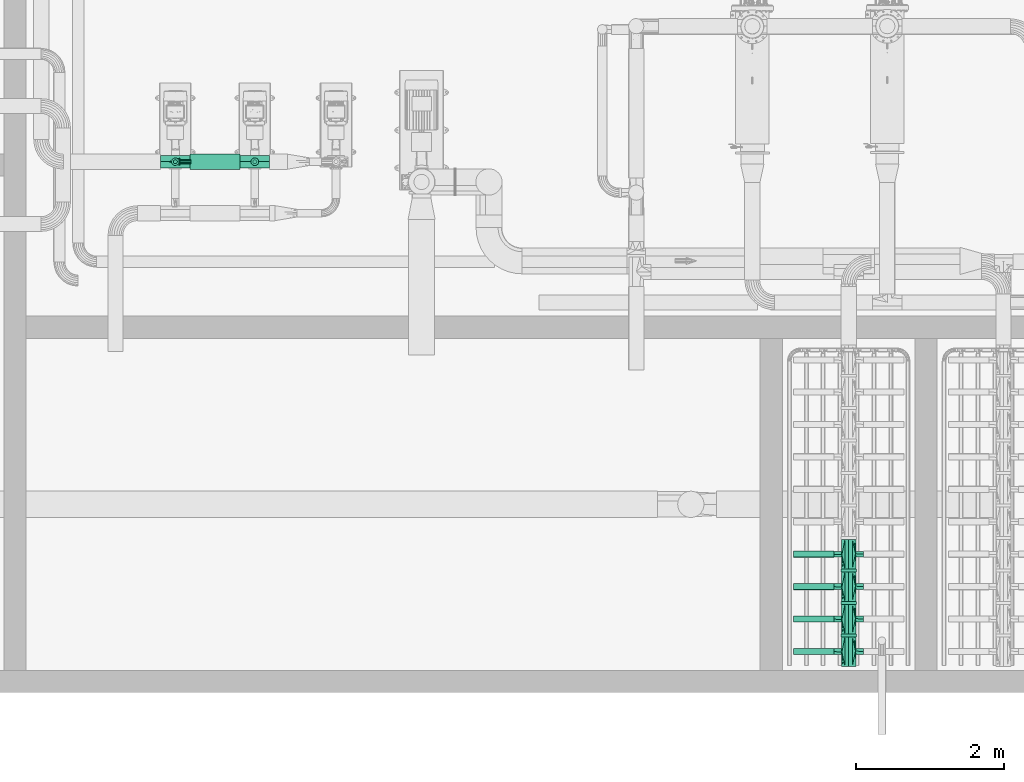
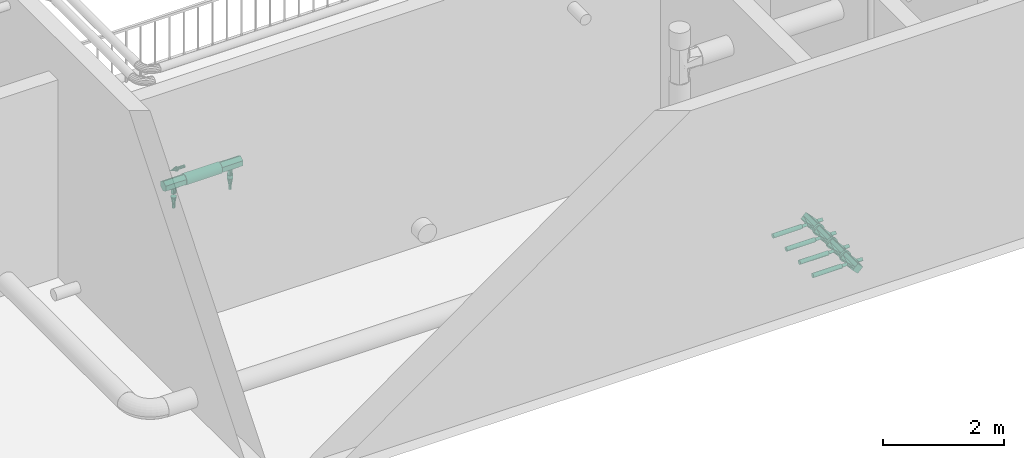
# One storey, part 10 of 28: 11 flow segments, 8 flow fittings, 1 flow controller.
"""IFC2X3 building model written with IfcOpenShell, lengths in millimetres."""

from ifc_helpers import new_model, entity, si_unit, converted_unit, direction, frame, frame_2d, origin, origin_2d_with_axis, place, context, subcontext, project, spatial, circle, extrude, faceted_brep, source, transform, mapped, material, type_object, type_shapes, element, save


model = new_model("IFC2X3")

# Units and contexts
model_context = context("Model", 3, precision=0.01, world=origin(), true_north=direction((6.123031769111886e-17, 1.0)))
body_context = subcontext(model_context, "Body", "Model", "MODEL_VIEW")
ifc_project = project(units=[si_unit("LENGTHUNIT", "METRE", prefix="MILLI"), converted_unit("PLANEANGLEUNIT", "DEGREE", entity("IfcPlaneAngleMeasure", 0.017453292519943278), si_unit("PLANEANGLEUNIT", "RADIAN"), dimensions=[0, 0, 0, 0, 0, 0, 0]), si_unit("AREAUNIT", "SQUARE_METRE")], contexts=[model_context])

# Site, building, storey
site_placement = place(None, frame((7776.576483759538, 118.3519876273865, 0.0)))
site = spatial("IfcSite", under=ifc_project, at=site_placement, Name="Default", CompositionType="ELEMENT")
building_placement = place(site_placement, origin())
building = spatial("IfcBuilding", under=site, at=building_placement, Name="Bygning (endres i Project Information)", CompositionType="ELEMENT")
storey_placement = place(building_placement, frame((0.0, 0.0, 14000.0)))
storey = spatial("IfcBuildingStorey", under=building, at=storey_placement, Name="Plan U1 - Arbeid", CompositionType="ELEMENT", Elevation=14000.000000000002)

# Flow segments
ifc_material_1 = material(Name="SS 2343 Rustfritt stål, prosessrør, generisk")
pipe_segment_type = type_object("IfcPipeSegmentType", Name="Pipe Types:AISI 304L Rustfritt", PredefinedType="NOTDEFINED", material=ifc_material_1)
flow_segment_1_placement = place(storey_placement, origin())
element("IfcFlowSegment", 1, at=flow_segment_1_placement, inside=storey, type_object=pipe_segment_type, Name="Pipe Types:AISI 304L Rustfritt", ObjectType="Pipe Types:AISI 304L Rustfritt", context=body_context, shape_type="SweptSolid", body=[
    extrude(circle(Radius=42.0, at=origin_2d_with_axis()), frame((28224.00137486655, 21271.75730578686, 203.0), z_axis=(1.0, 0.0, 0.0), x_axis=(0.0, -1.0, 0.0)), (0.0, 0.0, 1.0), 550.0000000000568),
])
flow_segment_2_placement = place(storey_placement, origin())
element("IfcFlowSegment", 2, at=flow_segment_2_placement, inside=storey, type_object=pipe_segment_type, Name="Pipe Types:AISI 304L Rustfritt", ObjectType="Pipe Types:AISI 304L Rustfritt", context=body_context, shape_type="SweptSolid", body=[
    extrude(circle(Radius=42.0, at=origin_2d_with_axis()), frame((28224.00137486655, 20831.75730578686, 203.0), z_axis=(1.0, 0.0, 0.0), x_axis=(0.0, -1.0, 0.0)), (0.0, 0.0, 1.0), 550.0000000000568),
])
flow_segment_3_placement = place(storey_placement, origin())
element("IfcFlowSegment", 3, at=flow_segment_3_placement, inside=storey, type_object=pipe_segment_type, Name="Pipe Types:AISI 304L Rustfritt", ObjectType="Pipe Types:AISI 304L Rustfritt", context=body_context, shape_type="SweptSolid", body=[
    extrude(circle(Radius=103.0, at=origin_2d_with_axis()), frame((28974.00137486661, 21031.757305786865, 203.0), z_axis=(0.0, 1.0, 0.0), x_axis=(1.0, 0.0, 0.0)), (0.0, 0.0, 1.0), 39.99999999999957),
])
flow_segment_4_placement = place(storey_placement, origin())
element("IfcFlowSegment", 4, at=flow_segment_4_placement, inside=storey, type_object=pipe_segment_type, Name="Pipe Types:AISI 304L Rustfritt", ObjectType="Pipe Types:AISI 304L Rustfritt", context=body_context, shape_type="SweptSolid", body=[
    extrude(circle(Radius=42.0, at=origin_2d_with_axis()), frame((28224.00137486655, 20391.757305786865, 203.0), z_axis=(1.0, 0.0, 0.0), x_axis=(0.0, -1.0, 0.0)), (0.0, 0.0, 1.0), 550.0000000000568),
])
flow_segment_5_placement = place(storey_placement, origin())
element("IfcFlowSegment", 5, at=flow_segment_5_placement, inside=storey, type_object=pipe_segment_type, Name="Pipe Types:AISI 304L Rustfritt", ObjectType="Pipe Types:AISI 304L Rustfritt", context=body_context, shape_type="SweptSolid", body=[
    extrude(circle(Radius=103.0, at=origin_2d_with_axis()), frame((28974.00137486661, 20591.757305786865, 203.0), z_axis=(0.0, 1.0, 0.0), x_axis=(1.0, 0.0, 0.0)), (0.0, 0.0, 1.0), 39.99999999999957),
])
flow_segment_6_placement = place(storey_placement, origin())
element("IfcFlowSegment", 6, at=flow_segment_6_placement, inside=storey, type_object=pipe_segment_type, Name="Pipe Types:AISI 304L Rustfritt", ObjectType="Pipe Types:AISI 304L Rustfritt", context=body_context, shape_type="SweptSolid", body=[
    extrude(circle(Radius=42.0, at=origin_2d_with_axis()), frame((28224.00137486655, 19951.757305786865, 203.0), z_axis=(1.0, 0.0, 0.0), x_axis=(0.0, -1.0, 0.0)), (0.0, 0.0, 1.0), 550.0000000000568),
])
flow_segment_7_placement = place(storey_placement, origin())
element("IfcFlowSegment", 7, at=flow_segment_7_placement, inside=storey, type_object=pipe_segment_type, Name="Pipe Types:AISI 304L Rustfritt", ObjectType="Pipe Types:AISI 304L Rustfritt", context=body_context, shape_type="SweptSolid", body=[
    extrude(circle(Radius=103.0, at=origin_2d_with_axis()), frame((28974.00137486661, 20151.757305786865, 203.0), z_axis=(0.0, 1.0, 0.0), x_axis=(1.0, 0.0, 0.0)), (0.0, 0.0, 1.0), 39.99999999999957),
])
flow_segment_8_placement = place(storey_placement, origin())
element("IfcFlowSegment", 8, at=flow_segment_8_placement, inside=storey, type_object=pipe_segment_type, Name="Pipe Types:AISI 304L Rustfritt", ObjectType="Pipe Types:AISI 304L Rustfritt", context=body_context, shape_type="SweptSolid", body=[
    extrude(circle(Radius=53.0, at=origin_2d_with_axis()), frame((20922.997814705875, 26593.04154167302, 715.0123753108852), z_axis=(0.0, 0.0011262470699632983, 0.9999993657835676), x_axis=(1.0, 0.0, 0.0)), (0.0, 0.0, 1.0), 70.00004906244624),
])
flow_segment_9_placement = place(storey_placement, origin())
element("IfcFlowSegment", 9, at=flow_segment_9_placement, inside=storey, type_object=pipe_segment_type, Name="Pipe Types:AISI 304L Rustfritt", ObjectType="Pipe Types:AISI 304L Rustfritt", context=body_context, shape_type="SweptSolid", body=[
    extrude(circle(Radius=103.0, at=frame_2d((0.0, -2.1657342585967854e-12), x_axis=(1.0, 0.0))), frame((20045.480355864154, 26593.120379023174, 985.0123799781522), z_axis=(1.0, 0.0, 0.0), x_axis=(0.0, 1.0, 0.0)), (0.0, 0.0, 1.0), 677.5174588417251),
])
flow_segment_10_placement = place(storey_placement, origin())
element("IfcFlowSegment", 10, at=flow_segment_10_placement, inside=storey, type_object=pipe_segment_type, Name="Pipe Types:AISI 304L Rustfritt", ObjectType="Pipe Types:AISI 304L Rustfritt", context=body_context, shape_type="SweptSolid", body=[
    extrude(circle(Radius=27.0, at=frame_2d((0.0, -4.331468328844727e-12), x_axis=(1.0, 0.0))), frame((20922.997814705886, 26593.109369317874, 485.01237997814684), z_axis=(0.0, -0.00029490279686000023, 0.9999999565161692), x_axis=(-1.0, 0.0, 0.0)), (0.0, 0.0, 1.0), 80.00000533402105),
])
flow_segment_11_placement = place(storey_placement, origin())
element("IfcFlowSegment", 11, at=flow_segment_11_placement, inside=storey, type_object=pipe_segment_type, Name="Pipe Types:AISI 304L Rustfritt", ObjectType="Pipe Types:AISI 304L Rustfritt", context=body_context, shape_type="SweptSolid", body=[
    extrude(circle(Radius=27.0, at=frame_2d((0.0, -4.330204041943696e-12), x_axis=(1.0, 0.0))), frame((19845.48035586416, 26593.098594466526, 485.0123799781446), z_axis=(0.0, -0.0005835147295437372, 0.9999998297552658), x_axis=(-1.0, 0.0, 0.0)), (0.0, 0.0, 1.0), 80.00002088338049),
])

# Flow fittings
pipe_fitting_type_1 = type_object("IfcPipeFittingType", Name="VA_prosess_rustfritt_kryss:VA_prosess_rustfritt_kryss", PredefinedType="NOTDEFINED", material=ifc_material_1)
shared_shape_1 = source(origin(), body_context, "Body", "Brep", [
    faceted_brep([(-200.0, -100.0, 0.0), (-200.0, -50.0, 50.0), (-200.0, 0.0, 100.0), (-200.0, 50.0, 50.0), (-200.0, 75.0, 25.0), (-200.0, 100.0, 0.0), (-200.0, 50.0, -50.0), (-200.0, 0.0, -100.0), (-200.0, -50.0, -50.0), (-200.0, -75.0, -25.0), (200.0, 50.0, -50.0), (200.0, 75.0, -25.0), (200.0, 100.0, 0.0), (200.0, 50.0, 50.0), (200.0, 0.0, 100.0), (200.0, -50.0, 50.0), (200.0, -75.0, 25.0), (200.0, -100.0, 0.0), (200.0, -50.0, -50.0), (200.0, 0.0, -100.0), (40.0, -100.0, 0.0), (-7.006670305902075, 91.91895032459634, 39.381551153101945), (-40.0, -100.0, 0.0), (-28.24833242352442, -97.97973758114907, 9.845387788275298), (-16.496664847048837, -95.9594751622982, 19.690775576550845), (-4.744997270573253, -93.93921274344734, 29.53616336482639), (7.00667030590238, -91.91895032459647, 39.38155115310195), (23.50333515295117, -95.95947516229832, 19.690775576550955), (-23.503335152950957, 95.95947516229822, 19.69077557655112), (-40.0, 100.0, 0.0), (40.0, 100.0, 0.0), (28.248332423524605, 97.97973758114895, 9.845387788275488), (16.496664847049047, 95.95947516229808, 19.690775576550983), (4.744997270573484, 93.93921274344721, 29.536163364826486), (-7.017574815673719, -91.91978218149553, -39.37960949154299), (-23.508787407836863, -95.95989109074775, -19.68980474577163), (-28.245606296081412, 97.97994554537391, -9.844902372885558), (-16.491212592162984, 95.95989109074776, -19.689804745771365), (-4.736818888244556, 93.93983663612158, -29.534707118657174), (7.017574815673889, 91.91978218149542, -39.37960949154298), (23.508787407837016, 95.95989109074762, -19.689804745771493), (28.24560629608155, -97.97994554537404, -9.844902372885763), (16.49121259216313, -95.95989109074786, -19.689804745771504), (4.736818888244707, -93.9398366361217, -29.53470711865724), (19.233483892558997, -200.0, -20.76651610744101), (29.616741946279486, -200.0, -10.383258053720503), (40.0, -200.0, 0.0), (20.0, -200.0, 20.0), (0.0, -200.0, 40.0), (-19.2334837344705, -200.0, 20.76651626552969), (-29.616741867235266, -200.0, 10.383258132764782), (-40.0, -200.0, 0.0), (-20.0, -200.0, -20.0), (0.0, -200.0, -40.0), (-19.23348389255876, 200.0, -20.766516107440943), (-29.616741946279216, 200.0, -10.38325805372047), (-40.0, 200.0, 0.0), (-20.0, 200.0, 20.0), (0.0, 200.0, 40.0), (19.233483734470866, 200.0, 20.76651626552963), (29.616741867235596, 200.0, 10.383258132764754), (40.0, 200.0, 0.0), (20.0, 200.0, -20.0), (0.0, 200.0, -40.0)], [[[0, 1, 2, 3, 4, 5, 6, 7, 8, 9]], [[10, 11, 12, 13, 14, 15, 16, 17, 18, 19]], [[17, 16, 20]], [[15, 14, 2, 1]], [[3, 13, 21]], [[0, 22, 23, 24, 25, 26]], [[0, 26, 1]], [[16, 26, 27, 20]], [[4, 21, 28, 29]], [[21, 13, 12]], [[26, 16, 15]], [[12, 30, 31, 32, 33, 21]], [[29, 5, 4]], [[2, 14, 13, 3]], [[21, 4, 3]], [[1, 26, 15]], [[11, 30, 12]], [[10, 19, 7, 6]], [[34, 9, 8]], [[9, 34, 35, 22]], [[5, 29, 36, 37, 38, 39]], [[39, 11, 10]], [[5, 39, 6]], [[34, 18, 17]], [[11, 39, 40, 30]], [[17, 20, 41, 42, 43, 34]], [[22, 0, 9]], [[7, 19, 18, 8]], [[6, 39, 10]], [[8, 18, 34]], [[44, 45, 46, 47, 48, 49, 50, 51, 52, 53]], [[25, 24, 23, 49]], [[49, 23, 50]], [[50, 22, 51]], [[49, 48, 25]], [[26, 48, 47]], [[47, 27, 26]], [[20, 27, 46]], [[46, 27, 47]], [[48, 26, 25]], [[22, 50, 23]], [[43, 42, 41, 44]], [[44, 41, 45]], [[45, 20, 46]], [[44, 53, 43]], [[34, 53, 52]], [[52, 35, 34]], [[22, 35, 51]], [[51, 35, 52]], [[53, 34, 43]], [[20, 45, 41]], [[54, 55, 56, 57, 58, 59, 60, 61, 62, 63]], [[33, 32, 31, 59]], [[59, 31, 60]], [[60, 30, 61]], [[59, 58, 33]], [[21, 58, 57]], [[57, 28, 21]], [[29, 28, 56]], [[56, 28, 57]], [[58, 21, 33]], [[30, 60, 31]], [[38, 37, 36, 54]], [[54, 36, 55]], [[55, 29, 56]], [[54, 63, 38]], [[39, 63, 62]], [[62, 40, 39]], [[30, 40, 61]], [[61, 40, 62]], [[63, 39, 38]], [[29, 55, 36]]]),
])
type_shapes(pipe_fitting_type_1, [shared_shape_1])
for number, where, z_axis, x_axis in (
    (12, (28974.00137486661, 21271.75730578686, 203.0), (0.0, 0.0, 1.0), (0.0, 1.0, 0.0)),
    (13, (28974.00137486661, 20831.75730578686, 203.0), (0.0, 0.0, 1.0), (0.0, 1.0, 0.0)),
    (14, (28974.00137486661, 20391.757305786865, 203.0), (0.0, 0.0, 1.0), (0.0, 1.0, 0.0)),
    (15, (28974.00137486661, 19951.757305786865, 203.0), (0.0, 0.0, 1.0), (0.0, 1.0, 0.0)),
):
    element("IfcFlowFitting", number, at=place(storey_placement, frame(where, z_axis=z_axis, x_axis=x_axis)), inside=storey, type_object=pipe_fitting_type_1, material=ifc_material_1, Name="VA_prosess_rustfritt_kryss:VA_prosess_rustfritt_kryss", ObjectType="VA_prosess_rustfritt_kryss:VA_prosess_rustfritt_kryss", context=body_context, shape_type="MappedRepresentation", body=[
        mapped(shared_shape_1, transform((0.0, 0.0, 0.0), scale=1.0)),
    ])
pipe_fitting_type_2 = type_object("IfcPipeFittingType", Name="VA_prosess_rustfritt_T_D=L:T-rør_prosess_D=L", PredefinedType="NOTDEFINED", material=ifc_material_1)
shared_shape_2 = source(origin(), body_context, "Body", "Brep", [
    faceted_brep([(-200.0, -100.0, 0.0), (-200.0, -75.0, 43.30127018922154), (-200.0, -50.0, 86.60254037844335), (-200.0, 0.0, 86.60254037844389), (-200.0, 50.0, 86.60254037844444), (-200.0, 75.0, 43.30127018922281), (-200.0, 100.0, 0.0), (-200.0, 75.0, -43.30127018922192), (-200.0, 50.0, -86.60254037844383), (-200.0, 0.0, -86.60254037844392), (-200.0, -50.0, -86.60254037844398), (-200.0, -75.0, -43.301270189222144), (200.0, 50.0, -86.60254037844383), (200.0, 75.0, -43.30127018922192), (200.0, 100.0, 0.0), (200.0, 79.16042409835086, 36.095204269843), (200.0, 50.0, 86.60254037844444), (200.0, 0.0, 86.60254037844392), (200.0, -50.0, 86.60254037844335), (200.0, -75.0, 43.3012701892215), (200.0, -100.0, 0.0), (200.0, -75.0, -43.30127018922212), (200.0, -50.0, -86.60254037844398), (200.0, 0.0, -86.60254037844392), (50.0, -100.0, 0.0), (-50.0, -100.0, 0.0), (-20.591033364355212, -93.52515349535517, 24.60814932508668), (8.817933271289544, -87.05030699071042, 49.216298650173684), (29.408966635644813, -93.52515349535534, 24.60814932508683), (20.594032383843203, -93.52484980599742, -24.60868646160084), (-8.811935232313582, -87.04969961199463, -49.21737292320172), (-29.4059676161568, -93.52484980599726, -24.608686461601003), (-36.99869875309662, -200.0, -22.518914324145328), (-25.0, -200.0, -43.30127018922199), (0.0, -200.0, -43.30127018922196), (25.0, -200.0, -43.30127018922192), (36.998698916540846, -200.0, -22.51891404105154), (50.0, -200.0, 0.0), (36.99869857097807, -200.0, 22.518914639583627), (25.0, -200.0, 43.30127018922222), (0.0, -200.0, 43.301270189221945), (-25.0, -200.0, 43.301270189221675), (-36.99869904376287, -200.0, 22.518913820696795), (-50.0, -200.0, 0.0)], [[[0, 1, 2, 3, 4, 5, 6, 7, 8, 9, 10, 11]], [[12, 13, 14, 15, 16, 17, 18, 19, 20, 21, 22, 23]], [[20, 19, 24]], [[25, 1, 0]], [[1, 25, 26, 27]], [[27, 2, 1]], [[19, 27, 28, 24]], [[19, 18, 27]], [[18, 17, 16, 4, 3, 2]], [[16, 15, 14, 6, 5, 4]], [[18, 2, 27]], [[6, 14, 13, 12, 8, 7]], [[12, 23, 22, 10, 9, 8]], [[21, 20, 24]], [[25, 0, 11]], [[21, 24, 29, 30]], [[11, 30, 31, 25]], [[30, 22, 21]], [[30, 11, 10]], [[22, 30, 10]], [[32, 33, 34, 35, 36, 37, 38, 39, 40, 41, 42, 43]], [[26, 42, 41]], [[26, 41, 40]], [[26, 25, 42]], [[28, 39, 38]], [[26, 40, 27]], [[25, 43, 42]], [[27, 39, 28]], [[38, 24, 28]], [[27, 40, 39]], [[38, 37, 24]], [[29, 36, 35]], [[29, 35, 34]], [[29, 24, 36]], [[31, 33, 32]], [[29, 34, 30]], [[24, 37, 36]], [[30, 33, 31]], [[32, 25, 31]], [[30, 34, 33]], [[32, 43, 25]]]),
])
type_shapes(pipe_fitting_type_2, [shared_shape_2])
for number, where, z_axis, x_axis in (
    (16, (20922.997814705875, 26593.120379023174, 985.0123799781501), (0.0, -1.0, 0.0), (1.0, 0.0, 0.0)),
    (17, (19845.48035586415, 26593.120379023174, 985.0123799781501), (0.0, -1.0, 0.0), (1.0, 0.0, 0.0)),
):
    element("IfcFlowFitting", number, at=place(storey_placement, frame(where, z_axis=z_axis, x_axis=x_axis)), inside=storey, type_object=pipe_fitting_type_2, material=ifc_material_1, Name="VA_prosess_rustfritt_T_D=L:T-rør_prosess_D=L", ObjectType="VA_prosess_rustfritt_T_D=L:T-rør_prosess_D=L", context=body_context, shape_type="MappedRepresentation", body=[
        mapped(shared_shape_2, transform((0.0, 0.0, 0.0), scale=1.0)),
    ])
pipe_fitting_type_3 = type_object("IfcPipeFittingType", Name="Overganger, konsentriske, rustfritt EN 1,4307304L:Standard", PredefinedType="NOTDEFINED", material=ifc_material_1)
shared_shape_3 = source(origin(), body_context, "Body", "Brep", [
    faceted_brep([(150.0, -52.0, 0.0), (150.0, -49.425190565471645, -11.280977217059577), (150.0, -46.8503811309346, -22.561954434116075), (150.0, -39.63592541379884, -31.608595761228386), (150.0, -32.421469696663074, -40.6552370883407), (150.0, -21.99627913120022, -45.67574426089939), (150.0, -11.571088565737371, -50.696251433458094), (150.0, 0.0, -50.69625143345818), (150.0, 11.57108856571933, -50.69625143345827), (150.0, 21.99627913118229, -45.675744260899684), (150.0, 32.421469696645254, -40.6552370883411), (150.0, 39.635925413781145, -31.60859576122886), (150.0, 46.85038113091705, -22.5619544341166), (150.0, 49.42519056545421, -11.28097721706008), (150.0, 52.0, 0.0), (150.0, 49.425190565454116, 11.280977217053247), (150.0, 46.85038113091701, 22.561954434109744), (150.0, 39.635925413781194, 31.60859576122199), (150.0, 32.42146969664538, 40.65523708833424), (150.0, 21.99627913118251, 45.675744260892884), (150.0, 11.571088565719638, 50.69625143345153), (150.0, 0.0, 50.69625143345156), (150.0, -11.571088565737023, 50.69625143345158), (150.0, -21.996279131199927, 45.67574426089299), (150.0, -32.421469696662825, 40.65523708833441), (150.0, -39.63592541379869, 31.60859576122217), (150.0, -46.85038113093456, 22.561954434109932), (150.0, -49.42519056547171, 11.280977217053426), (0.0, -21.843458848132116, -15.870201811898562), (0.0, -24.421729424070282, -7.935100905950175), (0.0, -27.0, 0.0), (0.0, -24.42172942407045, 7.935100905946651), (0.0, -21.843458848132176, 15.870201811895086), (0.0, -15.09345884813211, 20.774363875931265), (0.0, -8.34345884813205, 25.67852593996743), (0.0, 0.0, 25.678525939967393), (0.0, 8.343458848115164, 25.67852593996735), (0.0, 15.093458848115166, 20.77436387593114), (0.0, 21.843458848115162, 15.870201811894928), (0.0, 24.421729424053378, 7.93510090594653), (0.0, 27.0, 0.0), (0.0, 24.421729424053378, -7.935100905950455), (0.0, 21.843458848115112, -15.870201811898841), (0.0, 15.093458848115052, -20.774363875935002), (0.0, 8.343458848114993, -25.67852593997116), (0.0, 0.0, -25.67852593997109), (0.0, -8.343458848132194, -25.678525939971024), (0.0, -15.093458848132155, -20.774363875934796)], [[[0, 1, 2, 3, 4, 5, 6, 7, 8, 9, 10, 11, 12, 13, 14, 15, 16, 17, 18, 19, 20, 21, 22, 23, 24, 25, 26, 27]], [[28, 29, 30, 31, 32, 33, 34, 35, 36, 37, 38, 39, 40, 41, 42, 43, 44, 45, 46, 47]], [[1, 0, 30]], [[13, 12, 41]], [[30, 29, 1]], [[46, 6, 5]], [[45, 44, 8, 7, 6, 46]], [[12, 42, 41]], [[29, 28, 2]], [[47, 3, 28]], [[46, 5, 47]], [[3, 47, 4]], [[29, 2, 1]], [[9, 43, 10]], [[4, 47, 5]], [[43, 9, 44]], [[42, 10, 43]], [[42, 12, 11, 10]], [[40, 13, 41]], [[8, 44, 9]], [[13, 40, 14]], [[3, 2, 28]], [[15, 14, 40]], [[27, 26, 31]], [[40, 39, 15]], [[36, 20, 19]], [[35, 34, 22, 21, 20, 36]], [[26, 32, 31]], [[39, 38, 16]], [[37, 17, 38]], [[36, 19, 37]], [[17, 37, 18]], [[39, 16, 15]], [[23, 33, 24]], [[18, 37, 19]], [[33, 23, 34]], [[32, 24, 33]], [[32, 26, 25, 24]], [[30, 27, 31]], [[22, 34, 23]], [[27, 30, 0]], [[17, 16, 38]]]),
])
type_shapes(pipe_fitting_type_3, [shared_shape_3])
for number, where, z_axis, x_axis, name in (
    (18, (20922.99781470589, 26593.085777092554, 565.0123818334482), (0.0, 0.9999999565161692, 0.0002949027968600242), (0.0, -0.0002949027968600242, 0.9999999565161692), "Overganger, konsentriske, rustfritt EN 1,4307304L:Standard"),
    (19, (19845.480355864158, 26593.05191327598, 565.0123872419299), (0.0, 0.9999998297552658, 0.0005835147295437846), (0.0, -0.0005835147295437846, 0.9999998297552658), "Overganger, konsentriske, rustfritt EN 1,4307304L:Standard"),
):
    element("IfcFlowFitting", number, at=place(storey_placement, frame(where, z_axis=z_axis, x_axis=x_axis)), inside=storey, type_object=pipe_fitting_type_3, material=ifc_material_1, Name=name, ObjectType="Overganger, konsentriske, rustfritt EN 1,4307304L:Standard", context=body_context, shape_type="MappedRepresentation", body=[
        mapped(shared_shape_3, transform((0.0, 0.0, 0.0), scale=1.0)),
    ])

# Flow controller
ifc_material_2 = material(Name="Flow Pil")
valve_type = type_object("IfcValveType", Name="Flow Arrow 3D:Lengde 300", PredefinedType="NOTDEFINED", material=ifc_material_2)
shared_shape_4 = source(origin(), body_context, "Body", "Brep", [
    faceted_brep([(0.0, 30.0, 0.0), (0.0, 27.135254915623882, -8.816778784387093), (0.0, 24.2705098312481, -17.633557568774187), (-150.0, 24.2705098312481, -17.633557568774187), (-150.0, 27.135254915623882, -8.816778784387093), (-150.0, 30.0, 0.0), (0.0, -27.135254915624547, -8.816778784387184), (0.0, -30.0, 0.0), (-150.0, -30.0, 0.0), (-150.0, -27.97082116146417, -6.245170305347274), (-150.0, -26.120665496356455, -11.939363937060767), (-150.0, -24.27050983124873, -17.63355756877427), (0.0, -24.27050983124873, -17.63355756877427), (0.0, 9.270509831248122, -28.531695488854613), (-150.0, 9.270509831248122, -28.531695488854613), (-150.0, 16.770509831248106, -23.082626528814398), (0.0, 16.77050983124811, -23.082626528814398), (-150.0, 0.0, -28.531695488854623), (0.0, 0.0, -28.531695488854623), (0.0, -9.27050983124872, -28.53169548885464), (-150.0, -9.27050983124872, -28.53169548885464), (-150.0, -16.770509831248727, -23.08262652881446), (0.0, -16.770509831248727, -23.08262652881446), (0.0, -24.27050983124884, 17.633557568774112), (-150.0, -24.27050983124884, 17.633557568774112), (-150.0, -27.135254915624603, 8.816778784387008), (0.0, -27.135254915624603, 8.816778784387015), (-150.0, -16.770509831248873, 23.082626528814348), (0.0, -16.770509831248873, 23.082626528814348), (0.0, -9.270509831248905, 28.53169548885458), (-150.0, -9.270509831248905, 28.53169548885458), (-150.0, 27.9708211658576, 6.2451702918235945), (-150.0, 26.12066549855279, 11.939363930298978), (-150.0, 24.270509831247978, 17.633557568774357), (0.0, 24.270509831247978, 17.633557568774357), (0.0, 27.135254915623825, 8.816778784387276), (0.0, 0.0, 28.531695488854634), (0.0, 9.270509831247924, 28.531695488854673), (-150.0, 9.270509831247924, 28.531695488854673), (-150.0, 0.0, 28.531695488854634), (-150.0, 16.770509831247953, 23.082626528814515), (0.0, 16.770509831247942, 23.082626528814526), (-150.0, -50.0, 0.0), (-150.0, -48.14398173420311, -8.131747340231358), (-150.0, -47.75703944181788, -9.827052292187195), (-150.0, -47.37009714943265, -11.522357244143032), (-150.0, -46.59621256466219, -14.912967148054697), (-150.0, -45.82232797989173, -18.303577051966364), (-150.0, -45.04844339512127, -21.69418695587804), (-150.0, -48.14398173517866, 8.13174733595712), (-150.0, -47.7570394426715, 9.82705228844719), (-150.0, -47.37009715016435, 11.522357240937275), (-150.0, -46.59621256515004, 14.912967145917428), (-150.0, -45.82232798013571, 18.303577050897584), (-150.0, -45.048443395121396, 21.69418695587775), (-150.0, -43.31419923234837, 23.8688603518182), (-150.0, -41.57995506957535, 26.04353374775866), (-150.0, -38.11146674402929, 30.39288053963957), (-150.0, -34.64297841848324, 34.74222733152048), (-150.0, -32.90873425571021, 36.91690072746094), (-150.0, -31.17449009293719, 39.09157412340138), (-150.0, -26.16237924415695, 41.50527949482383), (-150.0, -23.656323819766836, 42.71213218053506), (-150.0, -21.150268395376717, 43.91898486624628), (-150.0, -16.13815754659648, 46.33269023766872), (-150.0, -11.126046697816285, 48.746395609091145), (-150.0, -5.563023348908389, 48.746395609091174), (-150.0, 0.0, 48.746395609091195), (-150.0, 5.563023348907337, 48.746395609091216), (-150.0, 11.126046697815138, 48.74639560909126), (-150.0, 16.138157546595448, 46.332690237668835), (-150.0, 21.150268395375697, 43.91898486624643), (-150.0, 26.16237924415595, 41.50527949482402), (-150.0, 31.174490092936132, 39.09157412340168), (-150.0, 34.64297841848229, 34.74222733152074), (-150.0, 36.37722258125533, 32.56755393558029), (-150.0, 38.11146674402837, 30.39288053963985), (-150.0, 41.57995506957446, 26.043533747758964), (-150.0, 43.31419923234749, 23.868860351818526), (-150.0, 45.04844339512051, 21.69418695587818), (-150.0, 45.82232795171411, 18.303577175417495), (-150.0, 46.596212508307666, 14.912967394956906), (-150.0, 47.37009706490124, 11.522357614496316), (-150.0, 47.757039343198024, 9.827052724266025), (-150.0, 48.14398162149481, 8.131747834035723), (-150.0, 50.0, 0.0), (-150.0, 48.143981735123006, -8.131747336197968), (-150.0, 47.757039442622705, -9.82705228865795), (-150.0, 47.37009715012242, -11.522357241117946), (-150.0, 46.596212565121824, -14.912967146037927), (-150.0, 45.82232798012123, -18.30357705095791), (-150.0, 45.048443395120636, -21.694186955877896), (-150.0, 43.314199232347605, -23.868860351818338), (-150.0, 41.579955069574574, -26.043533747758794), (-150.0, 38.111466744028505, -30.392880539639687), (-150.0, 34.64297841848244, -34.74222733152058), (-150.0, 32.90873425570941, -36.91690072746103), (-150.0, 31.174490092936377, -39.09157412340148), (-150.0, 26.162379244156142, -41.5052794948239), (-150.0, 23.656323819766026, -42.712132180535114), (-150.0, 21.150268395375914, -43.91898486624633), (-150.0, 16.13815754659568, -46.33269023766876), (-150.0, 11.126046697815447, -48.74639560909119), (-150.0, 5.563023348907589, -48.746395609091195), (-150.0, 0.0, -48.7463956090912), (-150.0, -5.56302334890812, -48.746395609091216), (-150.0, -11.126046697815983, -48.74639560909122), (-150.0, -16.138157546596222, -46.332690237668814), (-150.0, -21.150268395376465, -43.9189848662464), (-150.0, -26.162379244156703, -41.50527949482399), (-150.0, -31.174490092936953, -39.09157412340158), (-150.0, -43.31419923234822, -23.86886035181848), (-150.0, -41.57995506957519, -26.043533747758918), (-150.0, -38.11146674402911, -30.39288053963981), (-150.0, -36.377222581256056, -32.56755393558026), (-150.0, -34.642978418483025, -34.742227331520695), (-197.898349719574, 34.03388342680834, 0.0), (-189.9152914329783, 36.69490285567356, 0.0), (-185.92376228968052, 38.02541257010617, 0.0), (-181.93223314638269, 39.355922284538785, 0.0), (-177.94070400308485, 40.68643199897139, 0.0), (-173.949174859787, 42.01694171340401, 0.0), (-169.95764571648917, 43.34745142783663, 0.0), (-165.96611657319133, 44.677961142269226, 0.0), (-300.0, 0.0, 0.0), (-289.2330582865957, 3.588980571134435, 0.0), (-235.39834971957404, 21.533883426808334, 0.0), (-256.93223314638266, 14.355922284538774, 0.0), (-278.46611657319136, 7.177961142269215, 0.0), (-267.69917485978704, 10.766941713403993, 0.0), (-278.46611724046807, -7.177960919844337, 0.0), (-289.23305862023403, -3.5889804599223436, 0.0), (-205.88141034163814, -31.372863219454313, 0.0), (-251.54876379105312, -16.150412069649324, 0.0), (-256.9322344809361, -14.35592183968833, 0.0), (-224.63140800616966, 25.122863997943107, 0.0), (-197.89835172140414, -34.033882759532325, 0.0), (-235.3983517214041, -21.533882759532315, 0.0), (-205.88140800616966, 31.372863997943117, 0.0), (-213.86446629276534, 28.71184456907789, 0.0), (-177.9407051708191, -40.68643160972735, 0.0), (-181.93223448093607, -39.355921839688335, 0.0), (-185.9237637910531, -38.025412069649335, 0.0), (-189.91529310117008, -36.694902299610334, 0.0), (-165.96611724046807, -44.677960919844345, 0.0), (-169.95764655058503, -43.347451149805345, 0.0), (-173.94917586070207, -42.016941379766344, 0.0), (-251.54876298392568, 16.150412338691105, 0.0), (-246.16529143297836, 17.944902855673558, 0.0), (-224.63141034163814, -25.12286321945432, 0.0), (-267.6991758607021, -10.766941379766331, 0.0), (-213.86446896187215, -28.711843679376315, 0.0), (-246.16529310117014, -17.944902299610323, 0.0), (0.0, 0.0, 0.0)], [[[0, 1, 2, 3, 4, 5]], [[6, 7, 8, 9, 10, 11, 12]], [[13, 14, 15, 3, 2, 16]], [[17, 14, 13, 18, 19, 20]], [[12, 11, 21, 20, 19, 22]], [[23, 24, 25, 8, 7, 26]], [[27, 24, 23, 28, 29, 30]], [[0, 5, 31, 32, 33, 34, 35]], [[30, 29, 36, 37, 38, 39]], [[40, 38, 37, 41, 34, 33]], [[8, 42, 43]], [[8, 43, 44]], [[8, 44, 45]], [[8, 45, 46]], [[8, 46, 47]], [[8, 47, 48]], [[48, 9, 8]], [[8, 49, 42]], [[8, 50, 49]], [[8, 51, 50]], [[8, 52, 51]], [[8, 53, 52]], [[8, 54, 53]], [[54, 8, 25]], [[54, 25, 24]], [[24, 55, 54]], [[24, 56, 55]], [[24, 57, 56]], [[24, 58, 57]], [[24, 59, 58]], [[24, 60, 59]], [[60, 24, 27]], [[60, 27, 30]], [[30, 61, 60]], [[30, 62, 61]], [[30, 63, 62]], [[30, 64, 63]], [[30, 65, 64]], [[65, 30, 39]], [[65, 39, 38]], [[38, 66, 65]], [[38, 67, 66]], [[38, 68, 67]], [[38, 69, 68]], [[38, 70, 69]], [[38, 71, 70]], [[38, 72, 71]], [[38, 73, 72]], [[73, 38, 40]], [[73, 40, 33]], [[33, 74, 73]], [[33, 75, 74]], [[33, 76, 75]], [[33, 77, 76]], [[33, 78, 77]], [[33, 79, 78]], [[79, 33, 32]], [[79, 32, 31]], [[79, 31, 5]], [[5, 80, 79]], [[5, 81, 80]], [[5, 82, 81]], [[5, 83, 82]], [[5, 84, 83]], [[5, 85, 84]], [[5, 86, 85]], [[5, 87, 86]], [[5, 88, 87]], [[5, 89, 88]], [[5, 90, 89]], [[5, 91, 90]], [[91, 5, 4]], [[91, 4, 3]], [[3, 92, 91]], [[3, 93, 92]], [[3, 94, 93]], [[3, 95, 94]], [[3, 96, 95]], [[3, 97, 96]], [[97, 3, 15]], [[97, 15, 14]], [[14, 98, 97]], [[14, 99, 98]], [[14, 100, 99]], [[14, 101, 100]], [[14, 102, 101]], [[14, 103, 102]], [[14, 104, 103]], [[14, 105, 104]], [[14, 106, 105]], [[106, 14, 17]], [[106, 17, 20]], [[20, 107, 106]], [[20, 108, 107]], [[20, 109, 108]], [[20, 110, 109]], [[110, 20, 21]], [[110, 21, 11]], [[48, 11, 10]], [[11, 48, 111]], [[11, 111, 112]], [[11, 112, 113]], [[11, 113, 114]], [[11, 114, 115]], [[11, 115, 110]], [[48, 10, 9]], [[90, 91, 116, 117, 118, 119, 120, 121, 122, 123, 85, 86, 87, 88, 89]], [[104, 124, 125]], [[97, 126, 96]], [[127, 99, 100, 101]], [[128, 129, 102]], [[105, 130, 131]], [[113, 112, 132]], [[108, 133, 134]], [[130, 105, 106]], [[126, 135, 96]], [[48, 136, 112, 111]], [[109, 110, 137]], [[125, 103, 104]], [[131, 104, 105]], [[138, 94, 139]], [[140, 141, 142, 143, 136, 48, 47, 46, 45, 44, 43, 42, 144, 145, 146]], [[99, 127, 147, 148]], [[114, 149, 110, 115]], [[107, 134, 150]], [[93, 138, 116]], [[151, 114, 113]], [[134, 107, 108]], [[116, 91, 92, 93]], [[113, 132, 151]], [[112, 136, 132]], [[94, 138, 93]], [[139, 95, 135]], [[94, 95, 139]], [[135, 95, 96]], [[137, 110, 149]], [[149, 114, 151]], [[109, 137, 152, 133]], [[109, 133, 108]], [[126, 98, 148]], [[97, 98, 126]], [[148, 98, 99]], [[102, 129, 101]], [[127, 101, 129]], [[150, 106, 107]], [[130, 106, 150]], [[128, 103, 125]], [[102, 103, 128]], [[124, 104, 131]], [[53, 54, 136, 143, 142, 141, 140, 146, 145, 144, 42, 49, 50, 51, 52]], [[132, 57, 151]], [[60, 137, 59]], [[120, 119, 118, 117, 116, 79, 80, 81, 82, 83, 84, 85, 123, 122, 121]], [[72, 73, 126]], [[130, 150, 65]], [[71, 147, 127]], [[134, 62, 63, 64]], [[125, 68, 128]], [[78, 79, 116, 77]], [[76, 77, 138]], [[131, 66, 67]], [[125, 67, 68]], [[128, 68, 69]], [[67, 124, 131]], [[137, 149, 59]], [[62, 134, 133, 152]], [[75, 135, 73, 74]], [[70, 127, 129]], [[56, 132, 136]], [[139, 75, 76]], [[127, 70, 71]], [[136, 54, 55, 56]], [[76, 138, 139]], [[77, 116, 138]], [[57, 132, 56]], [[151, 58, 149]], [[57, 58, 151]], [[149, 58, 59]], [[126, 73, 135]], [[135, 75, 139]], [[72, 126, 148, 147]], [[72, 147, 71]], [[137, 61, 152]], [[60, 61, 137]], [[152, 61, 62]], [[65, 150, 64]], [[134, 64, 150]], [[129, 69, 70]], [[128, 69, 129]], [[124, 67, 125]], [[130, 66, 131]], [[65, 66, 130]], [[153, 12, 22]], [[153, 22, 19]], [[153, 19, 18]], [[153, 6, 12]], [[153, 7, 6]], [[153, 18, 13]], [[153, 13, 16]], [[153, 16, 2]], [[153, 2, 1]], [[153, 1, 0]], [[153, 0, 35]], [[153, 26, 7]], [[153, 23, 26]], [[153, 28, 23]], [[153, 29, 28]], [[153, 35, 34]], [[153, 34, 41]], [[153, 41, 37]], [[153, 37, 36]], [[153, 36, 29]]]),
])
type_shapes(valve_type, [shared_shape_4])
flow_controller_placement = place(storey_placement, frame((20057.00137486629, 26593.120379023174, 1250.0)))
element("IfcFlowController", 20, at=flow_controller_placement, inside=storey, type_object=valve_type, material=ifc_material_2, Name="Flow Arrow 3D:Lengde 300", ObjectType="Flow Arrow 3D:Lengde 300", context=body_context, shape_type="MappedRepresentation", body=[
    mapped(shared_shape_4, transform((0.0, 0.0, 0.0), scale=1.0)),
])

save(model, "model.ifc")
